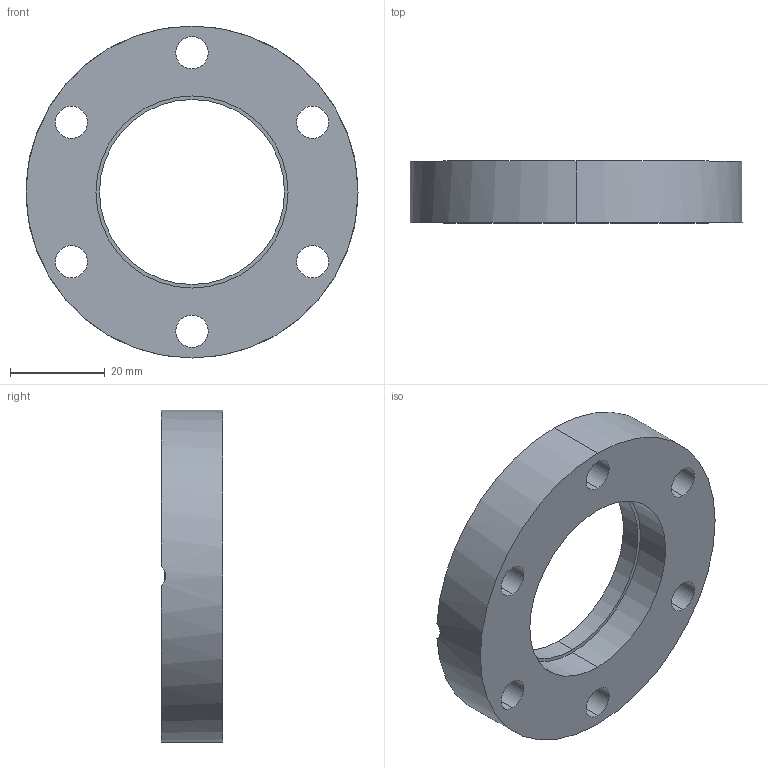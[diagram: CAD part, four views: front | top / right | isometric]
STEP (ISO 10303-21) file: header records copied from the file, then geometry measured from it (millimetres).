
FILE_DESCRIPTION (( 'STEP AP214' ), '1' );
FILE_NAME ('W6CFF40.STEP', '2021-05-14T10:15:33', ( '' ), ( '' ), 'SwSTEP 2.0', 'SolidWorks 2020', '' );
FILE_SCHEMA (( 'AUTOMOTIVE_DESIGN' ));
Length unit declared in the file: millimetre
Products named in the file (1): W6CFF40
Bounding box: 70 x 13 x 70 mm (x, y, z)
Volume: 30149.2 mm3; surface area: 11164.5 mm2
Topology: 1 solids, 1 shells, 37 faces, 92 edges, 58 vertices
Faces by surface type: cylinder 22, torus 6, plane 5, cone 4
Entity records: 1248 total; most frequent: CARTESIAN_POINT 256, DIRECTION 224, ORIENTED_EDGE 184, AXIS2_PLACEMENT_3D 98, EDGE_CURVE 92, CIRCLE 60, VERTEX_POINT 58, EDGE_LOOP 52
